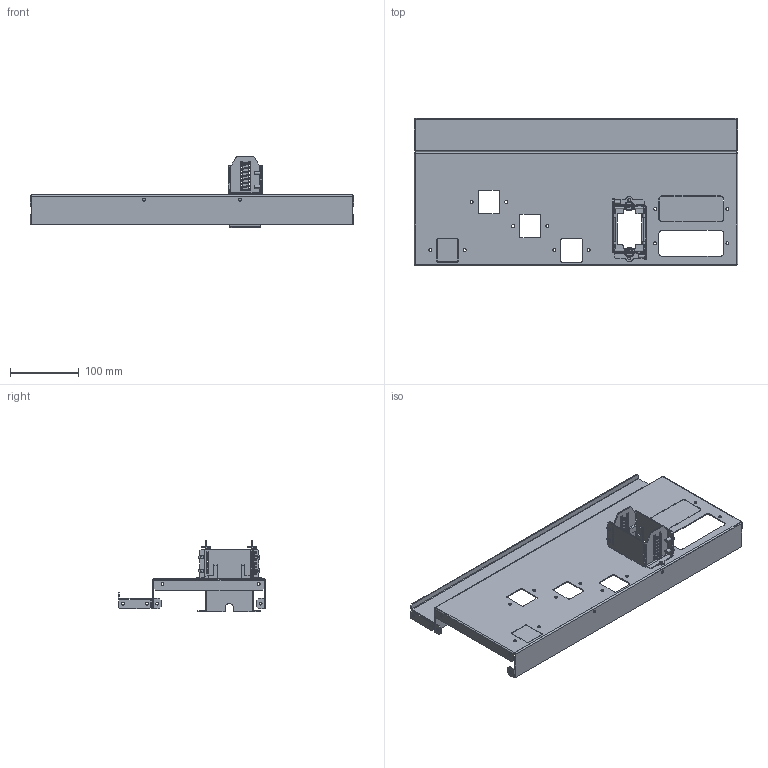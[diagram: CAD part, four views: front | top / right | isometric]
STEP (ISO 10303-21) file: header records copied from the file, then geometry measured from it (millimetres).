
FILE_DESCRIPTION(('CAx-IF Rec.Pracs.---Model Styling and Organization---1.2---2011-12-15','CAx-IF Rec.Pracs.---Geometric and Assembly Validation Properties---4.1---2014-06-16','CAx-IF Rec.Pracs.---PMI Polyline Presentation---2.0---2013-05-24'),'2;1');
FILE_NAME('R5M2W5M1BR21.stp','2021-05-05T12:28:49+03:00',(''),(''),'STEP Interface 4.4 by CT CoreTechnologie','3D_Evolution4.4 by CT CoreTechnologie','');
FILE_SCHEMA(('AUTOMOTIVE_DESIGN { 1 0 10303 214 1 1 1 1 }'));
Length unit declared in the file: millimetre
Products named in the file (9): R5M2W5M1BR21; RB.1567.00.00.0_-00; RB.1765.00.00.0 ÑÁ; RB.1570.00.00.0; RB.1569.00.00.1_-00; RB.1571.00.00.0_In prestressed condition - 40 mm; M5x8-DIN7500C_stright; RB.1506.00.00.0_-02; RB.1507.00.00.0_-00
Assembly tree (14 placements, depth 3):
  R5M2W5M1BR21
    RB.1567.00.00.0_-00
    RB.1765.00.00.0 ÑÁ
      RB.1570.00.00.0  x2
      RB.1569.00.00.1_-00  x2
      RB.1571.00.00.0_In prestressed condition - 40 mm  x2
      M5x8-DIN7500C_stright  x4
    RB.1506.00.00.0_-02
    RB.1507.00.00.0_-00
Bounding box: 470 x 214.2 x 103.8 mm (x, y, z)
Surface area: 359417.5 mm2 (no closed solid volume)
Topology: 0 solids, 23 shells, 750 faces, 1983 edges, 1279 vertices
Faces by surface type: plane 502, cylinder 218, bspline 30
Entity records: 19567 total; most frequent: CARTESIAN_POINT 4659, ORIENTED_EDGE 2986, DIRECTION 2959, EDGE_CURVE 1493, VECTOR 1117, LINE 1117, VERTEX_POINT 961, AXIS2_PLACEMENT_3D 921
